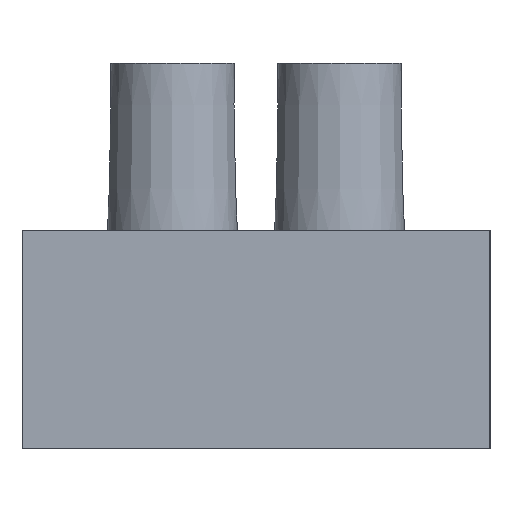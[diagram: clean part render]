
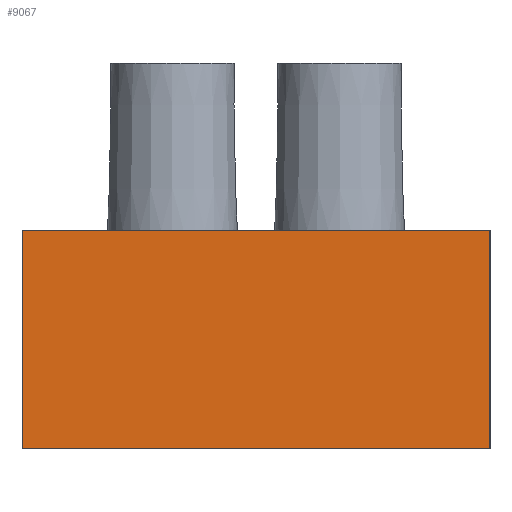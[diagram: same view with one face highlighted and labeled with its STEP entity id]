
A CAD part, left-side view. The second image highlights one B-rep face of the part: STEP entity #9067.
In plain terms, the highlighted planar face has unit normal (-1, 0, 0).
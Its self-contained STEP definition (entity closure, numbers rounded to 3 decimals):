
#44=LINE('',#13163,#984);
#205=LINE('',#13554,#1145);
#243=LINE('',#13675,#1183);
#487=LINE('',#14220,#1427);
#984=VECTOR('',#10481,1000.);
#1145=VECTOR('',#10734,1000.);
#1183=VECTOR('',#10828,1000.);
#1427=VECTOR('',#11278,1000.);
#2016=PLANE('',#9742);
#3105=ORIENTED_EDGE('',*,*,#5101,.T.);
#3106=ORIENTED_EDGE('',*,*,#5165,.F.);
#3107=ORIENTED_EDGE('',*,*,#4917,.F.);
#3108=ORIENTED_EDGE('',*,*,#5440,.T.);
#4917=EDGE_CURVE('',#6176,#6177,#44,.T.);
#5101=EDGE_CURVE('',#6360,#6361,#205,.T.);
#5165=EDGE_CURVE('',#6177,#6361,#243,.T.);
#5440=EDGE_CURVE('',#6176,#6360,#487,.T.);
#6176=VERTEX_POINT('',#13164);
#6177=VERTEX_POINT('',#13165);
#6360=VERTEX_POINT('',#13555);
#6361=VERTEX_POINT('',#13556);
#7545=EDGE_LOOP('',(#3105,#3106,#3107,#3108));
#8305=FACE_BOUND('',#7545,.T.);
#9067=ADVANCED_FACE('',(#8305),#2016,.F.);
#9742=AXIS2_PLACEMENT_3D('',#14229,#11283,#11284);
#10481=DIRECTION('',(0.,0.,1.));
#10734=DIRECTION('',(0.,0.,1.));
#10828=DIRECTION('',(0.,-1.,0.));
#11278=DIRECTION('',(0.,-1.,0.));
#11283=DIRECTION('',(1.,0.,0.));
#11284=DIRECTION('',(0.,0.,-1.));
#13163=CARTESIAN_POINT('',(-3.,17.1,-4.25));
#13164=CARTESIAN_POINT('',(-3.,17.1,-4.25));
#13165=CARTESIAN_POINT('',(-3.,17.1,4.25));
#13554=CARTESIAN_POINT('',(-3.,-1.1,-4.25));
#13555=CARTESIAN_POINT('',(-3.,-1.1,-4.25));
#13556=CARTESIAN_POINT('',(-3.,-1.1,4.25));
#13675=CARTESIAN_POINT('',(-3.,16.,4.25));
#14220=CARTESIAN_POINT('',(-3.,16.,-4.25));
#14229=CARTESIAN_POINT('',(-3.,16.,-4.25));
